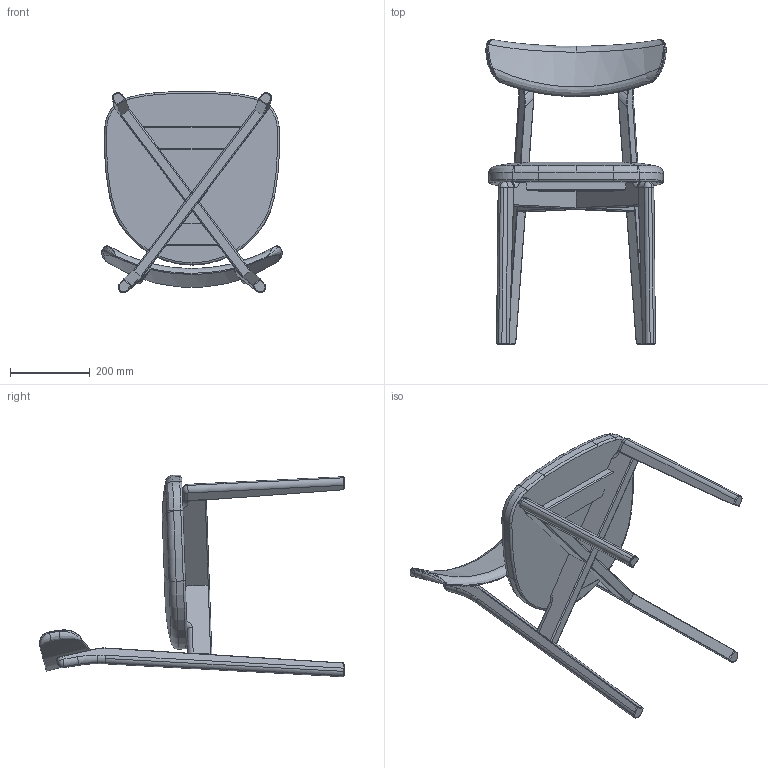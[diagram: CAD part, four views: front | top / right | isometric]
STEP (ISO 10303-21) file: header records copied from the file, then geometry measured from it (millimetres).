
FILE_DESCRIPTION (( 'STEP AP214' ), '1' );
FILE_NAME ('W僠僃傾CG.STEP', '2026-03-21T05:00:14', ( '' ), ( '' ), 'SwSTEP 2.0', 'SolidWorks 2025', '' );
FILE_SCHEMA (( 'AUTOMOTIVE_DESIGN' ));
Length unit declared in the file: millimetre
Products named in the file (1): WチェアCG
Bounding box: 451.65 x 762.17 x 503.93 mm (x, y, z)
Volume: 12435994 mm3; surface area: 975983.1 mm2
Topology: 10 solids, 10 shells, 284 faces, 687 edges, 421 vertices
Faces by surface type: cylinder 98, plane 78, bspline 55, torus 47, sphere 6
Entity records: 12832 total; most frequent: CARTESIAN_POINT 6647, ORIENTED_EDGE 1370, DIRECTION 1153, EDGE_CURVE 685, AXIS2_PLACEMENT_3D 444, VERTEX_POINT 421, ADVANCED_FACE 284, FACE_OUTER_BOUND 284
